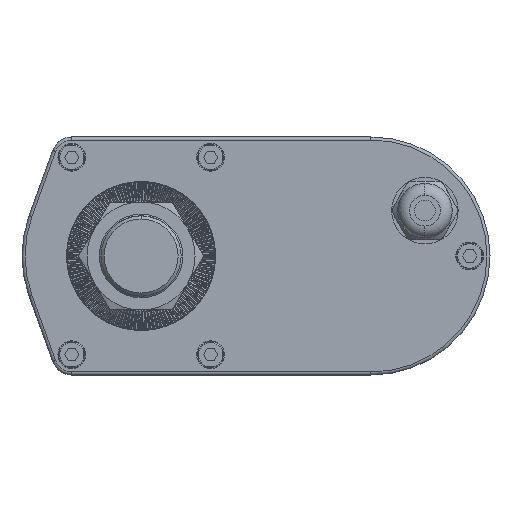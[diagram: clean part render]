
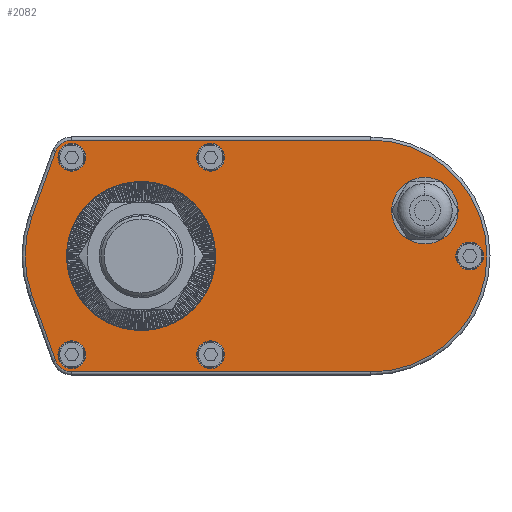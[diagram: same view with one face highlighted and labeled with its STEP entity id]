
A CAD part, left-side view. The second image highlights one B-rep face of the part: STEP entity #2082.
In plain terms, the highlighted planar face has unit normal (-1, 0, 0).
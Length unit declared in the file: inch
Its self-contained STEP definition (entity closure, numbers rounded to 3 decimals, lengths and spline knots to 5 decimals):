
#2082=ADVANCED_FACE('',(#5667,#5668,#5669,#5670,#5671,#5672,#5673,#5674),#5675,.F.);
#5667=FACE_BOUND('',#10793,.T.);
#5668=FACE_BOUND('',#10794,.T.);
#5669=FACE_BOUND('',#10795,.T.);
#5670=FACE_BOUND('',#10796,.T.);
#5671=FACE_BOUND('',#10797,.T.);
#5672=FACE_BOUND('',#10798,.T.);
#5673=FACE_BOUND('',#10799,.T.);
#5674=FACE_OUTER_BOUND('',#10800,.T.);
#5675=PLANE('',#10801);
#10793=EDGE_LOOP('',(#17387,#17388));
#10794=EDGE_LOOP('',(#17389,#17390));
#10795=EDGE_LOOP('',(#17391,#17392));
#10796=EDGE_LOOP('',(#17393,#17394));
#10797=EDGE_LOOP('',(#17395,#17396));
#10798=EDGE_LOOP('',(#17397,#17398));
#10799=EDGE_LOOP('',(#17399,#17400));
#10800=EDGE_LOOP('',(#17401,#17402,#17403,#17404,#17405,#17406,#17407,#17408));
#10801=AXIS2_PLACEMENT_3D('',#17409,#17410,#17411);
#17387=ORIENTED_EDGE('',*,*,#31632,.F.);
#17388=ORIENTED_EDGE('',*,*,#31633,.F.);
#17389=ORIENTED_EDGE('',*,*,#31634,.F.);
#17390=ORIENTED_EDGE('',*,*,#31635,.F.);
#17391=ORIENTED_EDGE('',*,*,#31636,.T.);
#17392=ORIENTED_EDGE('',*,*,#31637,.T.);
#17393=ORIENTED_EDGE('',*,*,#31638,.T.);
#17394=ORIENTED_EDGE('',*,*,#31639,.T.);
#17395=ORIENTED_EDGE('',*,*,#31640,.T.);
#17396=ORIENTED_EDGE('',*,*,#31641,.T.);
#17397=ORIENTED_EDGE('',*,*,#31196,.T.);
#17398=ORIENTED_EDGE('',*,*,#31642,.T.);
#17399=ORIENTED_EDGE('',*,*,#31643,.T.);
#17400=ORIENTED_EDGE('',*,*,#31644,.T.);
#17401=ORIENTED_EDGE('',*,*,#31645,.T.);
#17402=ORIENTED_EDGE('',*,*,#31646,.T.);
#17403=ORIENTED_EDGE('',*,*,#31647,.T.);
#17404=ORIENTED_EDGE('',*,*,#31648,.T.);
#17405=ORIENTED_EDGE('',*,*,#31649,.T.);
#17406=ORIENTED_EDGE('',*,*,#31650,.T.);
#17407=ORIENTED_EDGE('',*,*,#31651,.T.);
#17408=ORIENTED_EDGE('',*,*,#31042,.T.);
#17409=CARTESIAN_POINT('',(0.0,-2.93307,0.0));
#17410=DIRECTION('',(1.0,0.0,0.0));
#17411=DIRECTION('',(0.0,1.0,-0.0));
#31042=EDGE_CURVE('',#37073,#37078,#37080,.F.);
#31196=EDGE_CURVE('',#37338,#37342,#37344,.T.);
#31632=EDGE_CURVE('',#38098,#38099,#38100,.F.);
#31633=EDGE_CURVE('',#38099,#38098,#38101,.F.);
#31634=EDGE_CURVE('',#38102,#38103,#38104,.F.);
#31635=EDGE_CURVE('',#38103,#38102,#38105,.F.);
#31636=EDGE_CURVE('',#38106,#38107,#38108,.T.);
#31637=EDGE_CURVE('',#38107,#38106,#38109,.T.);
#31638=EDGE_CURVE('',#38110,#38111,#38112,.T.);
#31639=EDGE_CURVE('',#38111,#38110,#38113,.T.);
#31640=EDGE_CURVE('',#38114,#38115,#38116,.T.);
#31641=EDGE_CURVE('',#38115,#38114,#38117,.T.);
#31642=EDGE_CURVE('',#37342,#37338,#38118,.T.);
#31643=EDGE_CURVE('',#38119,#38120,#38121,.T.);
#31644=EDGE_CURVE('',#38120,#38119,#38122,.T.);
#31645=EDGE_CURVE('',#37078,#38123,#38124,.F.);
#31646=EDGE_CURVE('',#38123,#38125,#38126,.F.);
#31647=EDGE_CURVE('',#38125,#38127,#38128,.F.);
#31648=EDGE_CURVE('',#38127,#38129,#38130,.F.);
#31649=EDGE_CURVE('',#38129,#38131,#38132,.F.);
#31650=EDGE_CURVE('',#38131,#38133,#38134,.F.);
#31651=EDGE_CURVE('',#38133,#37073,#38135,.F.);
#37073=VERTEX_POINT('',#45500);
#37078=VERTEX_POINT('',#45506);
#37080=LINE('',#45508,#45509);
#37338=VERTEX_POINT('',#45851);
#37342=VERTEX_POINT('',#45856);
#37344=CIRCLE('',#45859,0.17717);
#38098=VERTEX_POINT('',#46888);
#38099=VERTEX_POINT('',#46889);
#38100=CIRCLE('',#46890,0.3248);
#38101=CIRCLE('',#46891,0.3248);
#38102=VERTEX_POINT('',#46892);
#38103=VERTEX_POINT('',#46893);
#38104=CIRCLE('',#46894,0.94882);
#38105=CIRCLE('',#46895,0.94882);
#38106=VERTEX_POINT('',#46896);
#38107=VERTEX_POINT('',#46897);
#38108=CIRCLE('',#46898,0.17717);
#38109=CIRCLE('',#46899,0.17717);
#38110=VERTEX_POINT('',#46900);
#38111=VERTEX_POINT('',#46901);
#38112=CIRCLE('',#46902,0.17717);
#38113=CIRCLE('',#46903,0.17717);
#38114=VERTEX_POINT('',#46904);
#38115=VERTEX_POINT('',#46905);
#38116=CIRCLE('',#46906,0.17717);
#38117=CIRCLE('',#46907,0.17717);
#38118=CIRCLE('',#46908,0.17717);
#38119=VERTEX_POINT('',#46909);
#38120=VERTEX_POINT('',#46910);
#38121=CIRCLE('',#46911,0.17717);
#38122=CIRCLE('',#46912,0.17717);
#38123=VERTEX_POINT('',#46913);
#38124=CIRCLE('',#46914,1.48031);
#38125=VERTEX_POINT('',#46915);
#38126=LINE('',#46916,#46917);
#38127=VERTEX_POINT('',#46918);
#38128=CIRCLE('',#46919,0.22047);
#38129=VERTEX_POINT('',#46920);
#38130=LINE('',#46921,#46922);
#38131=VERTEX_POINT('',#46923);
#38132=CIRCLE('',#46924,1.48031);
#38133=VERTEX_POINT('',#46925);
#38134=LINE('',#46926,#46927);
#38135=CIRCLE('',#46928,0.22047);
#45500=CARTESIAN_POINT('',(0.0,1.0916,1.33479));
#45506=CARTESIAN_POINT('',(0.0,1.39217,0.50319));
#45508=CARTESIAN_POINT('',(0.0,1.39217,0.50319));
#45509=VECTOR('',#56179,39.37008);
#45851=CARTESIAN_POINT('',(0.0,-0.8874,1.08268));
#45856=CARTESIAN_POINT('',(0.0,-0.8874,1.43701));
#45859=AXIS2_PLACEMENT_3D('',#56368,#56369,#56370);
#46888=CARTESIAN_POINT('',(0.0,-3.62205,0.25394));
#46889=CARTESIAN_POINT('',(0.0,-3.62205,0.90354));
#46890=AXIS2_PLACEMENT_3D('',#56926,#56927,#56928);
#46891=AXIS2_PLACEMENT_3D('',#56929,#56930,#56931);
#46892=CARTESIAN_POINT('',(0.0,0.0,-0.94882));
#46893=CARTESIAN_POINT('',(0.0,0.,0.94882));
#46894=AXIS2_PLACEMENT_3D('',#56932,#56933,#56934);
#46895=AXIS2_PLACEMENT_3D('',#56935,#56936,#56937);
#46896=CARTESIAN_POINT('',(0.0,-4.19449,-0.17717));
#46897=CARTESIAN_POINT('',(0.0,-4.19449,0.17717));
#46898=AXIS2_PLACEMENT_3D('',#56938,#56939,#56940);
#46899=AXIS2_PLACEMENT_3D('',#56941,#56942,#56943);
#46900=CARTESIAN_POINT('',(0.0,0.88425,1.08268));
#46901=CARTESIAN_POINT('',(0.0,0.88425,1.43701));
#46902=AXIS2_PLACEMENT_3D('',#56944,#56945,#56946);
#46903=AXIS2_PLACEMENT_3D('',#56947,#56948,#56949);
#46904=CARTESIAN_POINT('',(0.0,-0.8874,-1.43701));
#46905=CARTESIAN_POINT('',(0.0,-0.8874,-1.08268));
#46906=AXIS2_PLACEMENT_3D('',#56950,#56951,#56952);
#46907=AXIS2_PLACEMENT_3D('',#56953,#56954,#56955);
#46908=AXIS2_PLACEMENT_3D('',#56956,#56957,#56958);
#46909=CARTESIAN_POINT('',(0.0,0.88425,-1.43701));
#46910=CARTESIAN_POINT('',(0.0,0.88425,-1.08268));
#46911=AXIS2_PLACEMENT_3D('',#56959,#56960,#56961);
#46912=AXIS2_PLACEMENT_3D('',#56962,#56963,#56964);
#46913=CARTESIAN_POINT('',(0.0,1.39217,-0.50319));
#46914=AXIS2_PLACEMENT_3D('',#56965,#56966,#56967);
#46915=CARTESIAN_POINT('',(0.0,1.0916,-1.33479));
#46916=CARTESIAN_POINT('',(0.0,1.0916,-1.33479));
#46917=VECTOR('',#56968,39.37008);
#46918=CARTESIAN_POINT('',(0.0,0.88425,-1.48031));
#46919=AXIS2_PLACEMENT_3D('',#56969,#56970,#56971);
#46920=CARTESIAN_POINT('',(0.0,-2.93307,-1.48031));
#46921=CARTESIAN_POINT('',(0.0,-2.93307,-1.48031));
#46922=VECTOR('',#56972,39.37008);
#46923=CARTESIAN_POINT('',(0.0,-2.93307,1.48031));
#46924=AXIS2_PLACEMENT_3D('',#56973,#56974,#56975);
#46925=CARTESIAN_POINT('',(0.0,0.88425,1.48031));
#46926=CARTESIAN_POINT('',(0.0,0.88425,1.48031));
#46927=VECTOR('',#56976,39.37008);
#46928=AXIS2_PLACEMENT_3D('',#56977,#56978,#56979);
#56179=DIRECTION('',(0.0,-0.34,0.94));
#56368=CARTESIAN_POINT('',(0.0,-0.8874,1.25984));
#56369=DIRECTION('',(1.0,0.0,0.0));
#56370=DIRECTION('',(0.0,0.0,-1.0));
#56926=CARTESIAN_POINT('',(0.0,-3.62205,0.57874));
#56927=DIRECTION('',(1.0,0.0,0.0));
#56928=DIRECTION('',(0.0,0.0,-1.0));
#56929=CARTESIAN_POINT('',(0.0,-3.62205,0.57874));
#56930=DIRECTION('',(1.0,0.0,0.0));
#56931=DIRECTION('',(0.0,0.0,-1.0));
#56932=CARTESIAN_POINT('',(0.0,0.0,0.0));
#56933=DIRECTION('',(1.0,0.0,0.0));
#56934=DIRECTION('',(0.0,0.0,-1.0));
#56935=CARTESIAN_POINT('',(0.0,0.0,0.0));
#56936=DIRECTION('',(1.0,0.0,0.0));
#56937=DIRECTION('',(0.0,0.0,-1.0));
#56938=CARTESIAN_POINT('',(0.0,-4.19449,0.0));
#56939=DIRECTION('',(1.0,0.0,0.0));
#56940=DIRECTION('',(0.0,0.0,-1.0));
#56941=CARTESIAN_POINT('',(0.0,-4.19449,0.0));
#56942=DIRECTION('',(1.0,0.0,0.0));
#56943=DIRECTION('',(0.0,0.0,-1.0));
#56944=CARTESIAN_POINT('',(0.0,0.88425,1.25984));
#56945=DIRECTION('',(1.0,0.0,0.0));
#56946=DIRECTION('',(0.0,0.0,-1.0));
#56947=CARTESIAN_POINT('',(0.0,0.88425,1.25984));
#56948=DIRECTION('',(1.0,0.0,0.0));
#56949=DIRECTION('',(0.0,0.0,-1.0));
#56950=CARTESIAN_POINT('',(0.0,-0.8874,-1.25984));
#56951=DIRECTION('',(1.0,0.0,0.0));
#56952=DIRECTION('',(0.0,0.0,-1.0));
#56953=CARTESIAN_POINT('',(0.0,-0.8874,-1.25984));
#56954=DIRECTION('',(1.0,0.0,0.0));
#56955=DIRECTION('',(0.0,0.0,-1.0));
#56956=CARTESIAN_POINT('',(0.0,-0.8874,1.25984));
#56957=DIRECTION('',(1.0,0.0,0.0));
#56958=DIRECTION('',(0.0,0.0,-1.0));
#56959=CARTESIAN_POINT('',(0.0,0.88425,-1.25984));
#56960=DIRECTION('',(1.0,0.0,0.0));
#56961=DIRECTION('',(0.0,0.0,-1.0));
#56962=CARTESIAN_POINT('',(0.0,0.88425,-1.25984));
#56963=DIRECTION('',(1.0,0.0,0.0));
#56964=DIRECTION('',(0.0,0.0,-1.0));
#56965=CARTESIAN_POINT('',(0.0,0.,0.0));
#56966=DIRECTION('',(1.0,0.0,0.0));
#56967=DIRECTION('',(0.0,0.0,-1.0));
#56968=DIRECTION('',(0.0,0.34,0.94));
#56969=CARTESIAN_POINT('',(0.0,0.88425,-1.25984));
#56970=DIRECTION('',(1.0,0.0,0.0));
#56971=DIRECTION('',(0.0,0.0,-1.0));
#56972=DIRECTION('',(0.0,1.0,0.0));
#56973=CARTESIAN_POINT('',(0.0,-2.93307,0.0));
#56974=DIRECTION('',(1.0,0.0,0.0));
#56975=DIRECTION('',(0.0,0.0,-1.0));
#56976=DIRECTION('',(0.0,-1.0,0.0));
#56977=CARTESIAN_POINT('',(0.0,0.88425,1.25984));
#56978=DIRECTION('',(1.0,0.0,0.0));
#56979=DIRECTION('',(0.0,0.0,-1.0));
